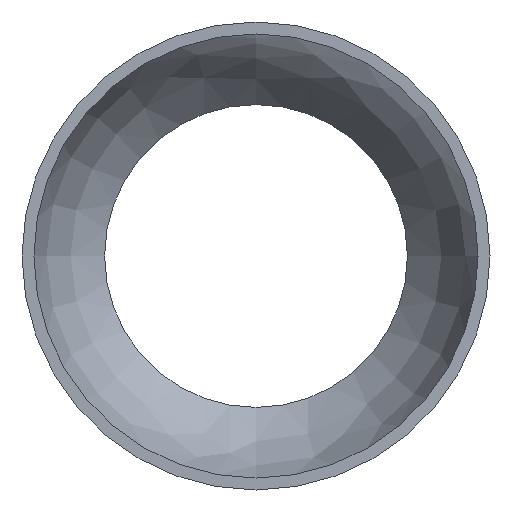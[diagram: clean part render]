
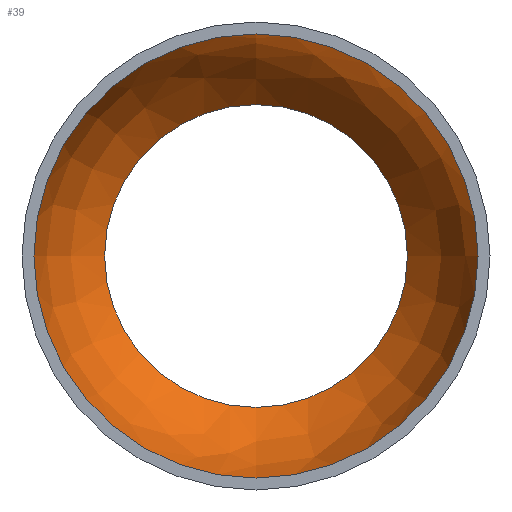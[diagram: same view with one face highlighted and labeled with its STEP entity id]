
A CAD part, front view. The second image highlights one B-rep face of the part: STEP entity #39.
In plain terms, the highlighted free-form (B-spline) face has degree [3, 3] with [4, 7] control points.
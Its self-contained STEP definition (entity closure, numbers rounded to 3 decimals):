
#39 = ADVANCED_FACE( '', ( #84, #85 ), #86, .F. );
#84 = FACE_OUTER_BOUND( '', #179, .T. );
#85 = FACE_OUTER_BOUND( '', #180, .T. );
#86 = ( BOUNDED_SURFACE(  )B_SPLINE_SURFACE( 3, 3, ( ( #183, #184, #185, #186, #187, #188, #189 ), ( #190, #191, #192, #193, #194, #195, #196 ), ( #197, #198, #199, #200, #201, #202, #203 ), ( #204, #205, #206, #207, #208, #209, #210 ) ), .UNSPECIFIED., .F., .T., .F. )B_SPLINE_SURFACE_WITH_KNOTS( ( 4, 4 ), ( 4, 3, 4 ), ( 0., 6.283 ), ( 0.128, 0.48, 0.831 ), .UNSPECIFIED. )GEOMETRIC_REPRESENTATION_ITEM(  )RATIONAL_B_SPLINE_SURFACE( ( ( 1., 0.333, 0.333, 1., 0.333, 0.333, 1. ), ( 0.959, 0.32, 0.32, 0.959, 0.32, 0.32, 0.959 ), ( 0.959, 0.32, 0.32, 0.959, 0.32, 0.32, 0.959 ), ( 1., 0.333, 0.333, 1., 0.333, 0.333, 1. ) ) )REPRESENTATION_ITEM( '' )SURFACE(  ) );
#179 = EDGE_LOOP( '', ( #267 ) );
#180 = EDGE_LOOP( '', ( #268 ) );
#183 = CARTESIAN_POINT( '', ( 0., 49.331, 55. ) );
#184 = CARTESIAN_POINT( '', ( 110., 49.331, 55. ) );
#185 = CARTESIAN_POINT( '', ( 110., 49.331, -55. ) );
#186 = CARTESIAN_POINT( '', ( 0., 49.331, -55. ) );
#187 = CARTESIAN_POINT( '', ( -110., 49.331, -55. ) );
#188 = CARTESIAN_POINT( '', ( -110., 49.331, 55. ) );
#189 = CARTESIAN_POINT( '', ( 0., 49.331, 55. ) );
#190 = CARTESIAN_POINT( '', ( 0., 36.31, 69.28 ) );
#191 = CARTESIAN_POINT( '', ( 138.56, 36.31, 69.28 ) );
#192 = CARTESIAN_POINT( '', ( 138.56, 36.31, -69.28 ) );
#193 = CARTESIAN_POINT( '', ( 0., 36.31, -69.28 ) );
#194 = CARTESIAN_POINT( '', ( -138.56, 36.31, -69.28 ) );
#195 = CARTESIAN_POINT( '', ( -138.56, 36.31, 69.28 ) );
#196 = CARTESIAN_POINT( '', ( 0., 36.31, 69.28 ) );
#197 = CARTESIAN_POINT( '', ( 0., 19.167, 78.199 ) );
#198 = CARTESIAN_POINT( '', ( 156.399, 19.167, 78.199 ) );
#199 = CARTESIAN_POINT( '', ( 156.399, 19.167, -78.199 ) );
#200 = CARTESIAN_POINT( '', ( 0., 19.167, -78.199 ) );
#201 = CARTESIAN_POINT( '', ( -156.399, 19.167, -78.199 ) );
#202 = CARTESIAN_POINT( '', ( -156.399, 19.167, 78.199 ) );
#203 = CARTESIAN_POINT( '', ( 0., 19.167, 78.199 ) );
#204 = CARTESIAN_POINT( '', ( 0., 0., 80.666 ) );
#205 = CARTESIAN_POINT( '', ( 161.333, 0., 80.666 ) );
#206 = CARTESIAN_POINT( '', ( 161.333, 0., -80.666 ) );
#207 = CARTESIAN_POINT( '', ( 0., 0., -80.666 ) );
#208 = CARTESIAN_POINT( '', ( -161.333, 0., -80.666 ) );
#209 = CARTESIAN_POINT( '', ( -161.333, 0., 80.666 ) );
#210 = CARTESIAN_POINT( '', ( 0., 0., 80.666 ) );
#267 = ORIENTED_EDGE( '', *, *, #341, .F. );
#268 = ORIENTED_EDGE( '', *, *, #342, .T. );
#341 = EDGE_CURVE( '', #371, #371, #372, .T. );
#342 = EDGE_CURVE( '', #373, #373, #374, .T. );
#371 = VERTEX_POINT( '', #410 );
#372 = CIRCLE( '', #411, 80.666 );
#373 = VERTEX_POINT( '', #412 );
#374 = CIRCLE( '', #413, 55. );
#410 = CARTESIAN_POINT( '', ( 0., 0., 80.666 ) );
#411 = AXIS2_PLACEMENT_3D( '', #449, #450, #451 );
#412 = CARTESIAN_POINT( '', ( 0., 49.331, 55. ) );
#413 = AXIS2_PLACEMENT_3D( '', #452, #453, #454 );
#449 = CARTESIAN_POINT( '', ( 0., 0., 0. ) );
#450 = DIRECTION( '', ( 0., 1., 0. ) );
#451 = DIRECTION( '', ( 0., 0., 1. ) );
#452 = CARTESIAN_POINT( '', ( 0., 49.331, 0. ) );
#453 = DIRECTION( '', ( 0., 1., 0. ) );
#454 = DIRECTION( '', ( 0., 0., 1. ) );
